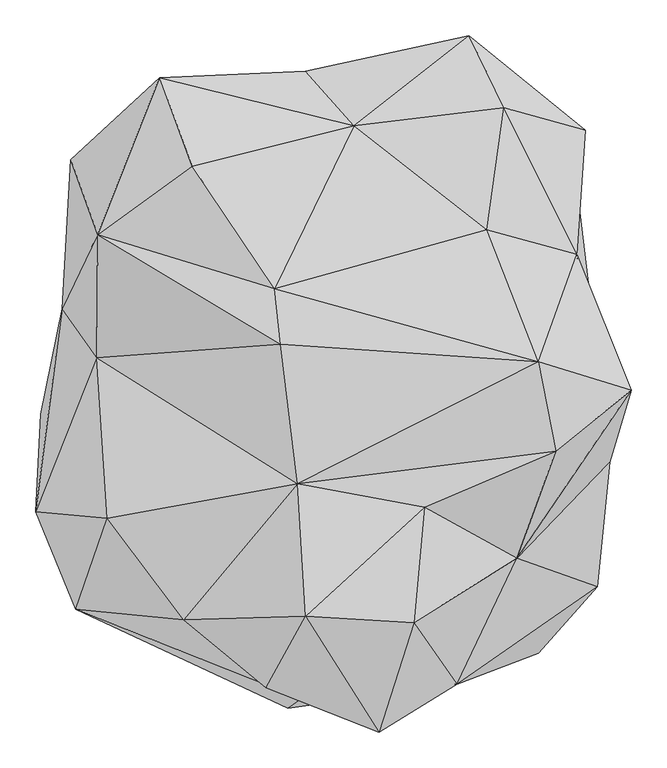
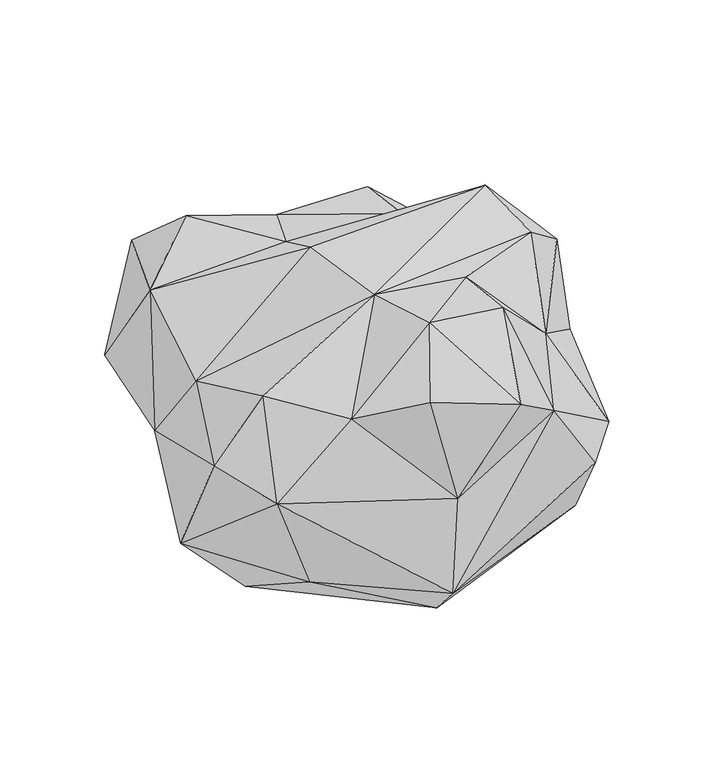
"""IFC4 building model written with IfcOpenShell, lengths in millimetres: geographic element geometry, Enscape AssetDefinition - Asparagaceae 001 Agave : Enscape AssetDefinition - Asparagaceae 001 Agave 3."""

from ifc_helpers import new_model, si_unit, origin, place, context, project, spatial, triangles, source, transform, mapped, element, save


def geographic_element_0c7ed200(model_context):
    return source(origin(), model_context, "Body", "Tessellation", [
        triangles([(14.7193913, 365.2323578, 55.8829898), (78.7559396, 72.9279341, 0.0), (-97.6672035, 236.5704982, 0.0), (209.5084146, 74.7517054, 0.0), (151.5269156, 486.8681746, 219.9651528), (63.2992477, -43.5244372, 0.0), (-79.8339442, -366.4292324, 93.2638113), (264.7041734, -283.1260504, 154.1801239), (327.9145775, -38.2584206, 69.9229168), (-433.3297274, -26.4779146, 157.5577157), (-280.4555376, 374.3041514, 261.2047867), (-360.5053934, 35.4418887, 77.9308082), (-329.1430999, -86.564302, 59.7460398), (-285.2370771, -248.5978346, 152.457918), (-86.9293142, -437.7734241, 172.2118721), (263.6238615, -360.9165602, 299.8680881), (-440.6732108, -162.7110349, 417.9097747), (-233.354579, -313.5983002, 543.2557211), (-384.4853614, -299.3076209, 395.4798211), (-340.5212208, -171.7566855, 546.5393869), (40.0070284, -471.2800272, 576.3179109), (-68.1960963, -424.3441203, 372.7939239), (-62.4500853, -308.9388099, 700.0000053), (-355.084358, 52.9186767, 450.1899991), (-403.8963859, 121.6645759, 313.0719151), (-353.7384373, 224.7731805, 551.7347457), (-267.0303577, 444.4388967, 501.1965514), (-97.8831332, 71.8163195, 652.2808977), (-73.855353, -123.3369484, 654.5016924), (-106.16564, 149.4211666, 620.8160305), (5.3213112, 377.3702797, 504.6814404), (-221.862566, 320.5577591, 616.6910643), (-264.9414773, 437.6789168, 331.5043293), (-391.5283545, 329.7630475, 353.9487442), (-62.7053477, 453.8272044, 367.2644285), (166.0843573, 503.4644726, 340.2490717), (191.3537633, 232.223943, 530.1053973), (329.4140499, 371.094282, 368.9850357), (214.9740512, 402.9577804, 478.7170006), (317.4463211, 197.3217493, 445.7623987), (254.7293826, 396.0831636, 171.7965086), (393.5294678, 7.1012823, 538.0931728), (318.8691267, 279.3859807, 218.7139574), (345.7730078, -267.8738019, 307.744733), (363.4496178, -93.3137537, 405.0620124), (287.7771473, -78.0562911, 642.3227846), (263.4485633, 47.3070779, 681.6955994), (233.5461007, -228.125792, 521.8147333), (149.2745821, -404.2982872, 484.0093374), (88.7977412, -318.4069456, 686.223448), (103.7913573, -156.4621067, 652.0852701), (-118.1688863, -408.8177424, 598.5285101)], [[21, 23, 52], [51, 29, 23], [21, 50, 23], [23, 50, 51], [50, 21, 49], [16, 44, 49], [44, 48, 49], [48, 51, 50], [50, 49, 48], [46, 29, 51], [51, 48, 46], [46, 47, 29], [47, 46, 42], [42, 46, 48], [9, 45, 44], [44, 45, 48], [42, 48, 45], [43, 45, 9], [4, 43, 9], [43, 4, 41], [43, 40, 45], [47, 42, 40], [45, 40, 42], [38, 40, 43], [43, 41, 38], [36, 38, 41], [36, 41, 5], [38, 39, 40], [39, 38, 36], [39, 37, 40], [47, 40, 37], [37, 39, 31], [39, 36, 31], [31, 36, 35], [36, 5, 35], [35, 5, 11], [33, 35, 11], [34, 33, 11], [27, 35, 33], [27, 33, 34], [27, 31, 35], [31, 27, 32], [30, 31, 32], [47, 37, 30], [31, 30, 37], [47, 28, 29], [47, 30, 28], [26, 27, 34], [28, 30, 26], [26, 32, 27], [30, 32, 26], [26, 34, 25], [11, 10, 25], [25, 34, 11], [28, 24, 29], [24, 28, 26], [26, 25, 24], [17, 25, 10], [25, 17, 24], [29, 24, 20], [24, 17, 20], [18, 29, 20], [23, 29, 18], [52, 23, 18], [49, 21, 22], [21, 52, 22], [52, 18, 22], [19, 18, 20], [18, 19, 22], [10, 19, 17], [17, 19, 20], [14, 19, 10], [15, 49, 22], [49, 15, 16], [15, 19, 14], [22, 19, 15], [8, 44, 16], [16, 15, 8], [44, 8, 9], [15, 14, 7], [8, 15, 7], [13, 7, 14], [14, 10, 13], [12, 13, 10], [10, 11, 12], [7, 6, 8], [12, 6, 13], [6, 4, 9], [9, 8, 6], [6, 7, 13], [3, 6, 12], [3, 12, 11], [2, 4, 6], [3, 2, 6], [11, 5, 1], [5, 41, 1], [41, 4, 1], [1, 3, 11], [1, 4, 2], [1, 2, 3]]),
    ])


if __name__ == "__main__":
    model = new_model("IFC4")
    model_context = context("Model", 3, world=origin())
    ifc_project = project(units=[si_unit("LENGTHUNIT", "METRE", prefix="MILLI")], contexts=[model_context])
    site = spatial("IfcSite", under=ifc_project)
    building = spatial("IfcBuilding", under=site)
    placement = place(None, origin())
    geographic_element_shape = geographic_element_0c7ed200(model_context)
    element("IfcGeographicElement", 1, ObjectType="Enscape AssetDefinition - Asparagaceae 001 Agave : Enscape AssetDefinition - Asparagaceae 001 Agave 3", at=placement, inside=building, context=model_context, shape_type="MappedRepresentation", body=[
        mapped(geographic_element_shape, transform((0.0, 0.0, 0.0), x_axis=(1.0, 0.0, 0.0), y_axis=(0.0, 1.0, 0.0), z_axis=(0.0, 0.0, 1.0))),
    ])
    save(model, "model.ifc")
